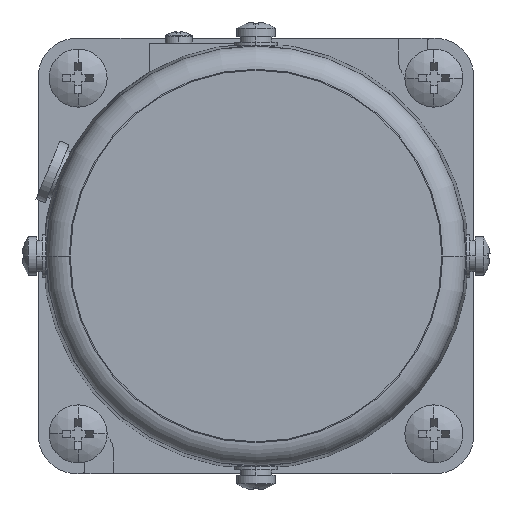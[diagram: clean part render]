
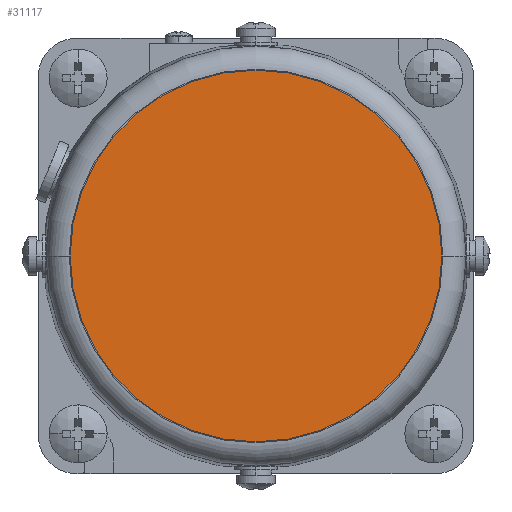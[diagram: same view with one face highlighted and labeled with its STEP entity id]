
A CAD part, left-side view. The second image highlights one B-rep face of the part: STEP entity #31117.
In plain terms, the highlighted planar face has unit normal (-1, 0, 0).
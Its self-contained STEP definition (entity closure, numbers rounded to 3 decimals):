
#283 = AXIS2_PLACEMENT_3D ( 'NONE', #10232, #21288, #32288 ) ;
#1829 = CARTESIAN_POINT ( 'NONE',  ( 2487.292, -736.854, 0. ) ) ;
#4720 = CIRCLE ( 'NONE', #24901, 38.4 ) ;
#6034 = EDGE_LOOP ( 'NONE', ( #20107, #22257 ) ) ;
#8336 = DIRECTION ( 'NONE',  ( 0., -1., 0. ) ) ;
#8839 = CIRCLE ( 'NONE', #29071, 38.4 ) ;
#10232 = CARTESIAN_POINT ( 'NONE',  ( 2487.292, -775.254, 0. ) ) ;
#10957 = DIRECTION ( 'NONE',  ( -1., 0., 0. ) ) ;
#18525 = VERTEX_POINT ( 'NONE', #23084 ) ;
#20107 = ORIENTED_EDGE ( 'NONE', *, *, #25172, .T. ) ;
#21288 = DIRECTION ( 'NONE',  ( 1., 0., 0. ) ) ;
#21871 = VERTEX_POINT ( 'NONE', #1829 ) ;
#21994 = DIRECTION ( 'NONE',  ( 0., -1., 0. ) ) ;
#22095 = CARTESIAN_POINT ( 'NONE',  ( 2487.292, -775.254, 0. ) ) ;
#22257 = ORIENTED_EDGE ( 'NONE', *, *, #22830, .T. ) ;
#22830 = EDGE_CURVE ( 'NONE', #21871, #18525, #8839, .T. ) ;
#23084 = CARTESIAN_POINT ( 'NONE',  ( 2487.292, -813.654, 0. ) ) ;
#23968 = FACE_OUTER_BOUND ( 'NONE', #6034, .T. ) ;
#24901 = AXIS2_PLACEMENT_3D ( 'NONE', #35701, #10957, #21994 ) ;
#25172 = EDGE_CURVE ( 'NONE', #18525, #21871, #4720, .T. ) ;
#29071 = AXIS2_PLACEMENT_3D ( 'NONE', #22095, #33090, #8336 ) ;
#31117 = ADVANCED_FACE ( 'NONE', ( #23968 ), #34989, .F. ) ;
#32288 = DIRECTION ( 'NONE',  ( 0., 1., 0. ) ) ;
#33090 = DIRECTION ( 'NONE',  ( -1., 0., 0. ) ) ;
#34989 = PLANE ( 'NONE',  #283 ) ;
#35701 = CARTESIAN_POINT ( 'NONE',  ( 2487.292, -775.254, 0. ) ) ;
